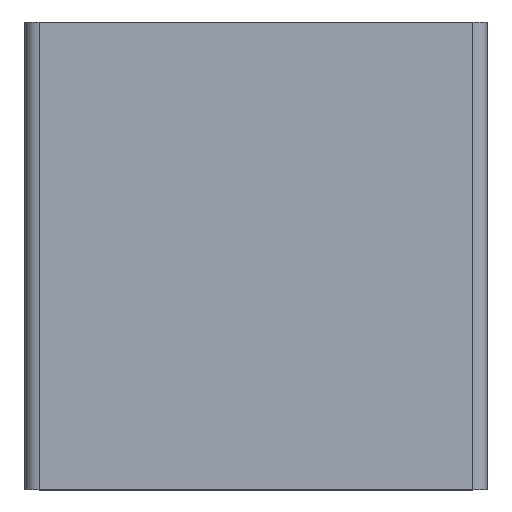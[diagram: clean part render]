
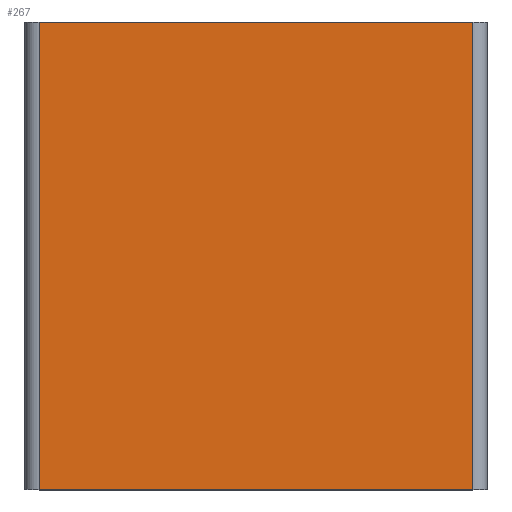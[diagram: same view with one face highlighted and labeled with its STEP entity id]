
A CAD part, top view. The second image highlights one B-rep face of the part: STEP entity #267.
In plain terms, the highlighted planar face has unit normal (0, 0, 1).
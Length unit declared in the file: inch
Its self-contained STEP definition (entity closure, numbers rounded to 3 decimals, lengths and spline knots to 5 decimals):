
#39=FACE_OUTER_BOUND('',#54,.T.);
#54=EDGE_LOOP('',(#223,#224,#225,#226));
#77=LINE('',#427,#105);
#82=LINE('',#443,#110);
#83=LINE('',#447,#111);
#84=LINE('',#448,#112);
#105=VECTOR('',#347,0.3937);
#110=VECTOR('',#364,0.3937);
#111=VECTOR('',#369,0.3937);
#112=VECTOR('',#370,0.3937);
#130=VERTEX_POINT('',#424);
#131=VERTEX_POINT('',#426);
#136=VERTEX_POINT('',#442);
#137=VERTEX_POINT('',#446);
#160=EDGE_CURVE('',#130,#131,#77,.T.);
#168=EDGE_CURVE('',#131,#136,#82,.T.);
#170=EDGE_CURVE('',#137,#130,#83,.T.);
#171=EDGE_CURVE('',#136,#137,#84,.T.);
#223=ORIENTED_EDGE('',*,*,#168,.F.);
#224=ORIENTED_EDGE('',*,*,#160,.F.);
#225=ORIENTED_EDGE('',*,*,#170,.F.);
#226=ORIENTED_EDGE('',*,*,#171,.F.);
#254=PLANE('',#302);
#267=ADVANCED_FACE('',(#39),#254,.T.);
#302=AXIS2_PLACEMENT_3D('',#445,#367,#368);
#347=DIRECTION('',(1.,0.,0.));
#364=DIRECTION('',(0.,-1.,0.));
#367=DIRECTION('center_axis',(0.,0.,1.));
#368=DIRECTION('ref_axis',(1.,0.,0.));
#369=DIRECTION('',(0.,1.,0.));
#370=DIRECTION('',(-1.,0.,0.));
#424=CARTESIAN_POINT('',(-0.469,1.01,0.5));
#426=CARTESIAN_POINT('',(0.469,1.01,0.5));
#427=CARTESIAN_POINT('',(0.5,1.01,0.5));
#442=CARTESIAN_POINT('',(0.469,0.,0.5));
#443=CARTESIAN_POINT('',(0.469,0.,0.5));
#445=CARTESIAN_POINT('Origin',(-0.5,0.,0.5));
#446=CARTESIAN_POINT('',(-0.469,0.,0.5));
#447=CARTESIAN_POINT('',(-0.469,0.,0.5));
#448=CARTESIAN_POINT('',(0.5,0.,0.5));
